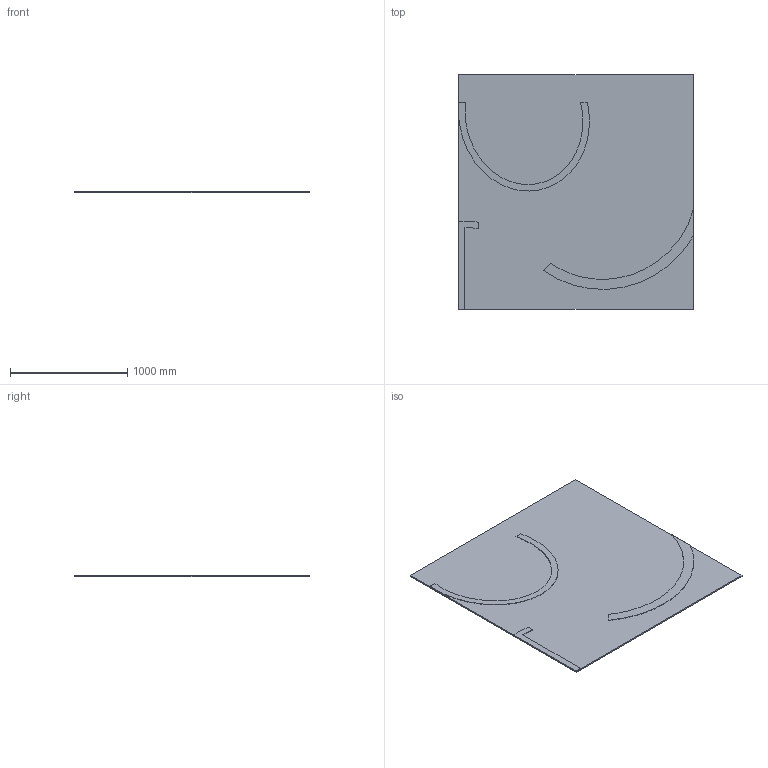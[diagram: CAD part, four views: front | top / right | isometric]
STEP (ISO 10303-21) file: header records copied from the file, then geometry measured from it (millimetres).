
FILE_DESCRIPTION(/* description */ (''),/* implementation_level */ '2;1');
FILE_NAME(/* name */ 'Faubourg_200x200_3D_20231017',/* time_stamp */ '2023-10-23T11:19:00+02:00',/* author */ (''),/* organization */ (''),/* preprocessor_version */ 'ST-DEVELOPER v16.5',/* originating_system */ 'Rhino 7.34',/* authorisation */ '');
FILE_SCHEMA (('CONFIG_CONTROL_DESIGN'));
Length unit declared in the file: millimetre
Products named in the file (1): Document
Bounding box: 2000 x 2000 x 17 mm (x, y, z)
Volume: 51433097.6 mm3; surface area: 8782099.1 mm2
Topology: 4 solids, 4 shells, 29 faces, 63 edges, 42 vertices
Faces by surface type: plane 21, bspline 8
Entity records: 1026 total; most frequent: CARTESIAN_POINT 491, ORIENTED_EDGE 126, EDGE_CURVE 63, B_SPLINE_CURVE_WITH_KNOTS 53, VERTEX_POINT 42, ADVANCED_FACE 29, FACE_OUTER_BOUND 29, EDGE_LOOP 29
